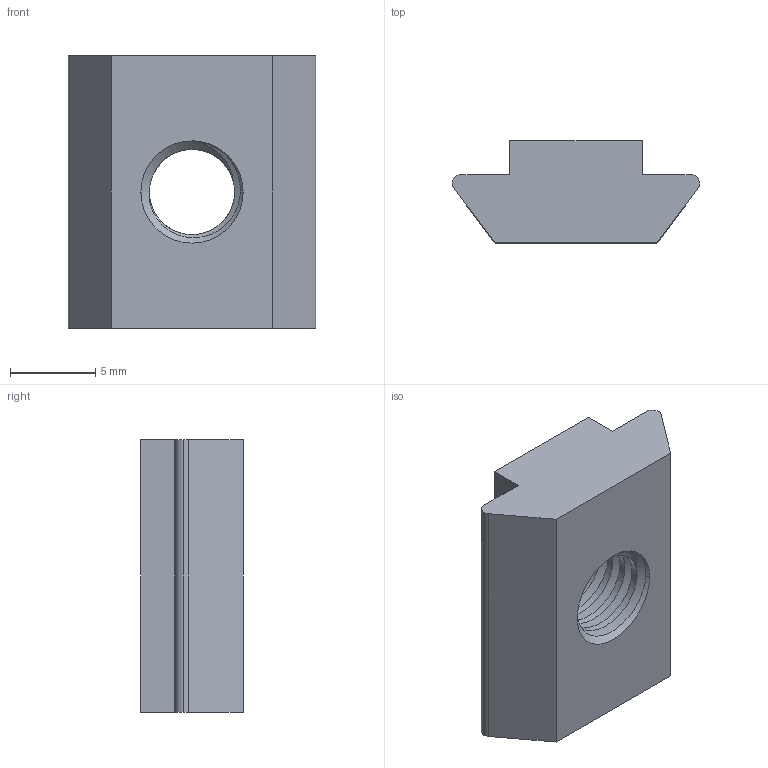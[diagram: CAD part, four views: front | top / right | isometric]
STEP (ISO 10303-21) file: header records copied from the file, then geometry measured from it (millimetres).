
FILE_DESCRIPTION (( 'STEP AP203' ), '1' );
FILE_NAME ('CE-SDN-30.STEP', '2020-07-17T03:13:00', ( '微软用户' ), ( '微软中国' ), 'SwSTEP 2.0', 'SolidWorks 2017', '' );
FILE_SCHEMA (( 'CONFIG_CONTROL_DESIGN' ));
Length unit declared in the file: millimetre
Products named in the file (1): CE-SDN-30
Bounding box: 14.5 x 6 x 16 mm (x, y, z)
Volume: 907.5 mm3; surface area: 830.3 mm2
Topology: 1 solids, 1 shells, 32 faces, 86 edges, 56 vertices
Faces by surface type: cylinder 14, plane 10, cone 6, bspline 2
Entity records: 2070 total; most frequent: CARTESIAN_POINT 1265, ORIENTED_EDGE 172, DIRECTION 131, EDGE_CURVE 86, VERTEX_POINT 56, AXIS2_PLACEMENT_3D 45, LINE 41, VECTOR 41
